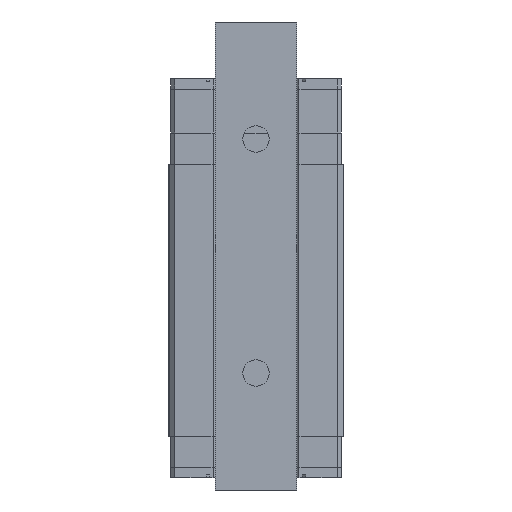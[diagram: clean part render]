
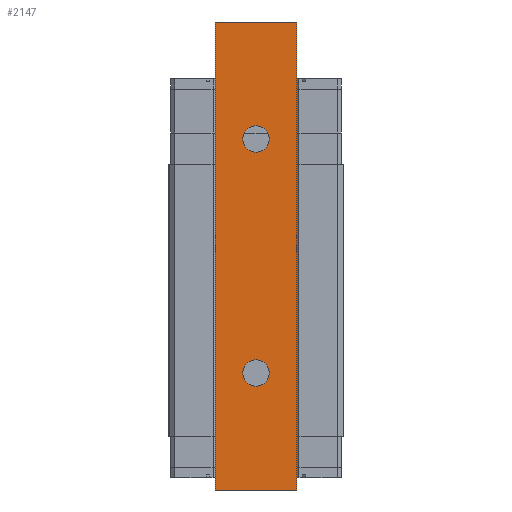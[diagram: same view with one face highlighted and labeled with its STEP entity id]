
A CAD part, front view. The second image highlights one B-rep face of the part: STEP entity #2147.
In plain terms, the highlighted planar face has unit normal (0, -1, 0).
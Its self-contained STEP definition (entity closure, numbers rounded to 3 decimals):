
#415 = EDGE_CURVE ( 'NONE', #25390, #19227, #8598, .T. ) ;
#442 = CARTESIAN_POINT ( 'NONE',  ( -14., -5.5, -80. ) ) ;
#927 = DIRECTION ( 'NONE',  ( 0., -1., 0. ) ) ;
#945 = LINE ( 'NONE', #20889, #7103 ) ;
#1376 = ORIENTED_EDGE ( 'NONE', *, *, #415, .F. ) ;
#1404 = ORIENTED_EDGE ( 'NONE', *, *, #4915, .F. ) ;
#2082 = CARTESIAN_POINT ( 'NONE',  ( 0., -5.5, -44.5 ) ) ;
#2147 = ADVANCED_FACE ( 'NONE', ( #23121, #12456, #18396 ), #27494, .F. ) ;
#2331 = ORIENTED_EDGE ( 'NONE', *, *, #5651, .F. ) ;
#2441 = CIRCLE ( 'NONE', #14092, 4.5 ) ;
#2513 = DIRECTION ( 'NONE',  ( 0., -1., 0. ) ) ;
#2953 = VERTEX_POINT ( 'NONE', #16173 ) ;
#3912 = CIRCLE ( 'NONE', #6977, 4.5 ) ;
#3958 = LINE ( 'NONE', #13317, #15678 ) ;
#4158 = EDGE_CURVE ( 'NONE', #27534, #2953, #25813, .T. ) ;
#4339 = CARTESIAN_POINT ( 'NONE',  ( 0., -5.5, 35.5 ) ) ;
#4851 = VECTOR ( 'NONE', #21571, 1000. ) ;
#4915 = EDGE_CURVE ( 'NONE', #19227, #25390, #2441, .T. ) ;
#5651 = EDGE_CURVE ( 'NONE', #30174, #14096, #3912, .T. ) ;
#6473 = CARTESIAN_POINT ( 'NONE',  ( -14., -5.5, 80. ) ) ;
#6977 = AXIS2_PLACEMENT_3D ( 'NONE', #14680, #927, #10347 ) ;
#7103 = VECTOR ( 'NONE', #23672, 1000. ) ;
#7603 = ORIENTED_EDGE ( 'NONE', *, *, #14130, .F. ) ;
#7767 = ORIENTED_EDGE ( 'NONE', *, *, #9714, .T. ) ;
#8598 = CIRCLE ( 'NONE', #19255, 4.5 ) ;
#9078 = CARTESIAN_POINT ( 'NONE',  ( 0., -5.5, 40. ) ) ;
#9638 = AXIS2_PLACEMENT_3D ( 'NONE', #6473, #22821, #11213 ) ;
#9688 = VECTOR ( 'NONE', #26096, 1000. ) ;
#9714 = EDGE_CURVE ( 'NONE', #27534, #11231, #945, .T. ) ;
#10338 = LINE ( 'NONE', #11786, #4851 ) ;
#10347 = DIRECTION ( 'NONE',  ( 0., 0., -1. ) ) ;
#11213 = DIRECTION ( 'NONE',  ( -1., 0., 0. ) ) ;
#11229 = CIRCLE ( 'NONE', #25749, 4.5 ) ;
#11231 = VERTEX_POINT ( 'NONE', #442 ) ;
#11786 = CARTESIAN_POINT ( 'NONE',  ( -14., -5.5, -80. ) ) ;
#12456 = FACE_BOUND ( 'NONE', #19612, .T. ) ;
#13317 = CARTESIAN_POINT ( 'NONE',  ( 14., -5.5, 80. ) ) ;
#14092 = AXIS2_PLACEMENT_3D ( 'NONE', #16797, #2513, #25774 ) ;
#14096 = VERTEX_POINT ( 'NONE', #29153 ) ;
#14130 = EDGE_CURVE ( 'NONE', #2953, #27647, #3958, .T. ) ;
#14273 = EDGE_CURVE ( 'NONE', #14096, #30174, #11229, .T. ) ;
#14680 = CARTESIAN_POINT ( 'NONE',  ( 0., -5.5, 40. ) ) ;
#14832 = CARTESIAN_POINT ( 'NONE',  ( 0., -5.5, -40. ) ) ;
#14948 = CARTESIAN_POINT ( 'NONE',  ( 14., -5.5, -80. ) ) ;
#15376 = ORIENTED_EDGE ( 'NONE', *, *, #4158, .F. ) ;
#15678 = VECTOR ( 'NONE', #30039, 1000. ) ;
#16169 = DIRECTION ( 'NONE',  ( 0., -1., 0. ) ) ;
#16173 = CARTESIAN_POINT ( 'NONE',  ( 14., -5.5, 80. ) ) ;
#16797 = CARTESIAN_POINT ( 'NONE',  ( 0., -5.5, -40. ) ) ;
#18396 = FACE_OUTER_BOUND ( 'NONE', #30228, .T. ) ;
#19227 = VERTEX_POINT ( 'NONE', #19561 ) ;
#19255 = AXIS2_PLACEMENT_3D ( 'NONE', #14832, #29113, #25063 ) ;
#19561 = CARTESIAN_POINT ( 'NONE',  ( 0., -5.5, -35.5 ) ) ;
#19612 = EDGE_LOOP ( 'NONE', ( #2331, #25949 ) ) ;
#20889 = CARTESIAN_POINT ( 'NONE',  ( -14., -5.5, 80. ) ) ;
#21542 = CARTESIAN_POINT ( 'NONE',  ( -14., -5.5, 80. ) ) ;
#21571 = DIRECTION ( 'NONE',  ( 1., 0., 0. ) ) ;
#22821 = DIRECTION ( 'NONE',  ( 0., 1., 0. ) ) ;
#23121 = FACE_BOUND ( 'NONE', #27230, .T. ) ;
#23644 = EDGE_CURVE ( 'NONE', #11231, #27647, #10338, .T. ) ;
#23672 = DIRECTION ( 'NONE',  ( 0., 0., -1. ) ) ;
#25063 = DIRECTION ( 'NONE',  ( 0., 0., -1. ) ) ;
#25390 = VERTEX_POINT ( 'NONE', #2082 ) ;
#25468 = DIRECTION ( 'NONE',  ( 0., 0., -1. ) ) ;
#25749 = AXIS2_PLACEMENT_3D ( 'NONE', #9078, #16169, #25468 ) ;
#25774 = DIRECTION ( 'NONE',  ( 0., 0., -1. ) ) ;
#25813 = LINE ( 'NONE', #21542, #9688 ) ;
#25949 = ORIENTED_EDGE ( 'NONE', *, *, #14273, .F. ) ;
#26096 = DIRECTION ( 'NONE',  ( 1., 0., 0. ) ) ;
#27230 = EDGE_LOOP ( 'NONE', ( #1376, #1404 ) ) ;
#27342 = ORIENTED_EDGE ( 'NONE', *, *, #23644, .T. ) ;
#27494 = PLANE ( 'NONE',  #9638 ) ;
#27534 = VERTEX_POINT ( 'NONE', #29386 ) ;
#27647 = VERTEX_POINT ( 'NONE', #14948 ) ;
#29113 = DIRECTION ( 'NONE',  ( 0., -1., 0. ) ) ;
#29153 = CARTESIAN_POINT ( 'NONE',  ( 0., -5.5, 44.5 ) ) ;
#29386 = CARTESIAN_POINT ( 'NONE',  ( -14., -5.5, 80. ) ) ;
#30039 = DIRECTION ( 'NONE',  ( 0., 0., -1. ) ) ;
#30174 = VERTEX_POINT ( 'NONE', #4339 ) ;
#30228 = EDGE_LOOP ( 'NONE', ( #7767, #27342, #7603, #15376 ) ) ;
